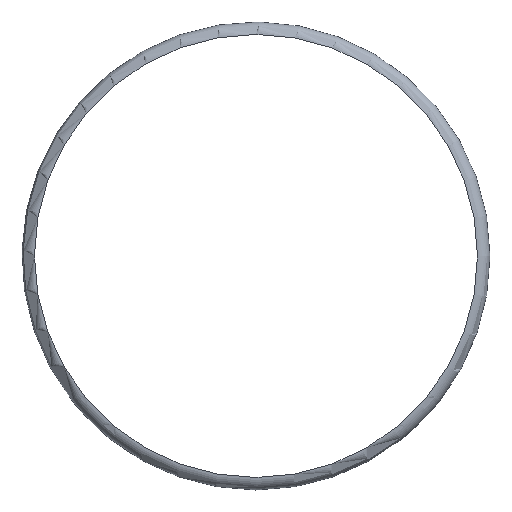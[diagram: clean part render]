
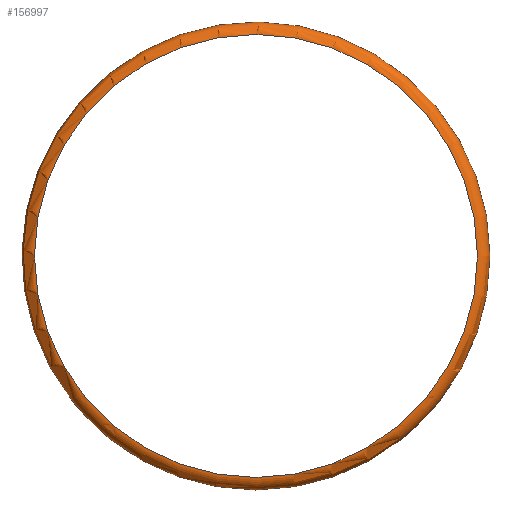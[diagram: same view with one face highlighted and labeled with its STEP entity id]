
A CAD part, top view. The second image highlights one B-rep face of the part: STEP entity #156997.
In plain terms, the highlighted toroidal (fillet/blend) face has major radius 35.5 mm and minor radius 2 mm.
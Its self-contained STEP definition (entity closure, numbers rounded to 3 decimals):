
#6676=B_SPLINE_CURVE_WITH_KNOTS('',3,(#356893,#356894,#356895,#356896,#356897,
#356898),.UNSPECIFIED.,.F.,.F.,(4,1,1,4),(-5.447,-3.891,
-2.335,0.),.UNSPECIFIED.);
#6679=B_SPLINE_CURVE_WITH_KNOTS('',3,(#356997,#356998,#356999,#357000,#357001,
#357002),.UNSPECIFIED.,.F.,.F.,(4,1,1,4),(-5.447,-3.891,
-2.335,0.),.UNSPECIFIED.);
#21596=FACE_BOUND('',#44628,.T.);
#32165=FACE_OUTER_BOUND('',#44627,.T.);
#44627=EDGE_LOOP('',(#141677));
#44628=EDGE_LOOP('',(#141678,#141679,#141680,#141681));
#60715=CIRCLE('',#183927,35.5);
#60716=CIRCLE('',#183928,37.5);
#60717=CIRCLE('',#183929,37.5);
#74104=VERTEX_POINT('',#356839);
#74106=VERTEX_POINT('',#356891);
#74108=VERTEX_POINT('',#356992);
#74109=VERTEX_POINT('',#356994);
#74110=VERTEX_POINT('',#356996);
#96621=EDGE_CURVE('',#74106,#74104,#6676,.T.);
#96625=EDGE_CURVE('',#74108,#74108,#60715,.T.);
#96626=EDGE_CURVE('',#74106,#74109,#60716,.T.);
#96627=EDGE_CURVE('',#74110,#74109,#6679,.T.);
#96628=EDGE_CURVE('',#74110,#74104,#60717,.T.);
#141677=ORIENTED_EDGE('',*,*,#96625,.T.);
#141678=ORIENTED_EDGE('',*,*,#96621,.F.);
#141679=ORIENTED_EDGE('',*,*,#96626,.T.);
#141680=ORIENTED_EDGE('',*,*,#96627,.F.);
#141681=ORIENTED_EDGE('',*,*,#96628,.T.);
#146430=TOROIDAL_SURFACE('',#183926,35.5,2.);
#156997=ADVANCED_FACE('',(#32165,#21596),#146430,.T.);
#183926=AXIS2_PLACEMENT_3D('',#356991,#240752,#240753);
#183927=AXIS2_PLACEMENT_3D('',#356993,#240754,#240755);
#183928=AXIS2_PLACEMENT_3D('',#356995,#240756,#240757);
#183929=AXIS2_PLACEMENT_3D('',#357003,#240758,#240759);
#240752=DIRECTION('center_axis',(0.,0.,
1.));
#240753=DIRECTION('ref_axis',(1.,0.,0.));
#240754=DIRECTION('center_axis',(0.,0.,
-1.));
#240755=DIRECTION('ref_axis',(-1.,0.,0.));
#240756=DIRECTION('center_axis',(0.,0.,
1.));
#240757=DIRECTION('ref_axis',(-1.,0.,0.));
#240758=DIRECTION('center_axis',(0.,0.,
1.));
#240759=DIRECTION('ref_axis',(-1.,0.,0.));
#356839=CARTESIAN_POINT('',(-29.414,-23.261,36.5));
#356891=CARTESIAN_POINT('',(-23.261,-29.414,36.5));
#356893=CARTESIAN_POINT('Ctrl Pts',(-23.261,-29.414,
36.5));
#356894=CARTESIAN_POINT('Ctrl Pts',(-23.872,-28.931,
36.687));
#356895=CARTESIAN_POINT('Ctrl Pts',(-25.097,-27.836,
36.961));
#356896=CARTESIAN_POINT('Ctrl Pts',(-27.244,-25.716,
37.06));
#356897=CARTESIAN_POINT('Ctrl Pts',(-28.689,-24.177,36.78));
#356898=CARTESIAN_POINT('Ctrl Pts',(-29.414,-23.261,
36.5));
#356991=CARTESIAN_POINT('Origin',(0.,0.,36.5));
#356992=CARTESIAN_POINT('',(35.5,0.,38.5));
#356993=CARTESIAN_POINT('Origin',(0.,0.,
38.5));
#356994=CARTESIAN_POINT('',(23.261,-29.414,36.5));
#356995=CARTESIAN_POINT('Origin',(0.,0.,36.5));
#356996=CARTESIAN_POINT('',(29.414,-23.261,36.5));
#356997=CARTESIAN_POINT('Ctrl Pts',(29.414,-23.261,36.5));
#356998=CARTESIAN_POINT('Ctrl Pts',(28.931,-23.872,
36.687));
#356999=CARTESIAN_POINT('Ctrl Pts',(27.836,-25.097,
36.961));
#357000=CARTESIAN_POINT('Ctrl Pts',(25.716,-27.244,
37.06));
#357001=CARTESIAN_POINT('Ctrl Pts',(24.177,-28.689,
36.78));
#357002=CARTESIAN_POINT('Ctrl Pts',(23.261,-29.414,
36.5));
#357003=CARTESIAN_POINT('Origin',(0.,0.,36.5));
